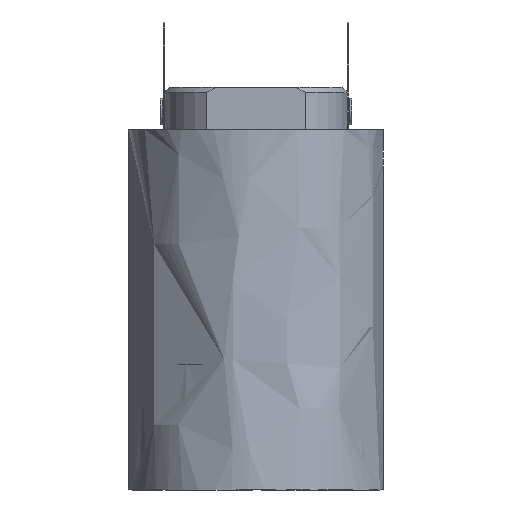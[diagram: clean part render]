
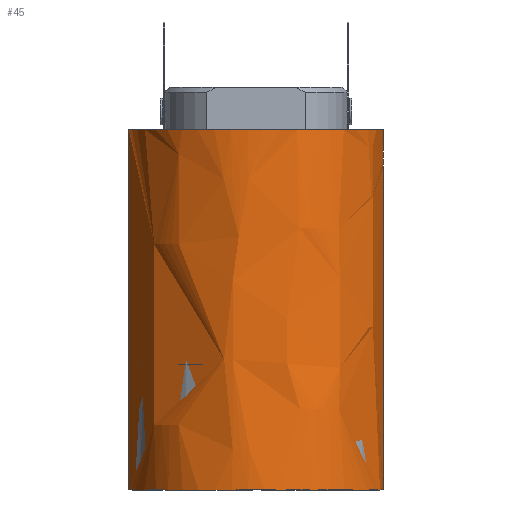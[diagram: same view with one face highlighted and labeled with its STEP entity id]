
A CAD part, front view. The second image highlights one B-rep face of the part: STEP entity #45.
In plain terms, the highlighted free-form (B-spline) face has degree [2, 1] with [9, 2] control points.
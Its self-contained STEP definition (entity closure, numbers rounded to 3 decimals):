
#45=ADVANCED_FACE('',(#423),#5024,.T.);
#423=FACE_OUTER_BOUND('',#776,.T.);
#776=EDGE_LOOP('',(#1156,#1157,#1158,#1159,#1160,#1161));
#1156=ORIENTED_EDGE('',*,*,#2828,.T.);
#1157=ORIENTED_EDGE('',*,*,#2829,.T.);
#1158=ORIENTED_EDGE('',*,*,#2841,.T.);
#1159=ORIENTED_EDGE('',*,*,#2830,.T.);
#1160=ORIENTED_EDGE('',*,*,#2831,.T.);
#1161=ORIENTED_EDGE('',*,*,#2832,.T.);
#2828=EDGE_CURVE('',#4509,#4510,#4182,.T.);
#2829=EDGE_CURVE('',#4510,#4508,#3667,.T.);
#2830=EDGE_CURVE('',#4511,#4506,#3668,.T.);
#2831=EDGE_CURVE('',#4506,#4507,#4183,.T.);
#2832=EDGE_CURVE('',#4507,#4509,#3669,.T.);
#2841=EDGE_CURVE('',#4508,#4511,#3672,.T.);
#3667=B_SPLINE_CURVE_WITH_KNOTS('',1,(#6378,#6379),.UNSPECIFIED.,.F.,.F.,
(2,2),(0.,67.4),.UNSPECIFIED.);
#3668=B_SPLINE_CURVE_WITH_KNOTS('',1,(#6380,#6381),.UNSPECIFIED.,.F.,.F.,
(2,2),(0.,4.4),.UNSPECIFIED.);
#3669=B_SPLINE_CURVE_WITH_KNOTS('',1,(#6387,#6388),.UNSPECIFIED.,.F.,.F.,
(2,2),(0.,75.),.UNSPECIFIED.);
#3672=B_SPLINE_CURVE_WITH_KNOTS('',3,(#6423,#6424,#6425,#6426,#6427,#6428,
#6429,#6430,#6431,#6432,#6433,#6434,#6435,#6436,#6437,#6438,#6439,#6440,
#6441,#6442,#6443,#6444,#6445,#6446,#6447,#6448,#6449,#6450,#6451,#6452,
#6453),.UNSPECIFIED.,.F.,.F.,(4,2,2,2,2,2,3,2,2,2,2,2,2,2,4),(0.,0.315,
0.631,0.946,1.262,1.893,2.524,
2.839,3.153,3.468,3.783,4.098,
4.412,4.727,5.042),.UNSPECIFIED.);
#4182=(
BOUNDED_CURVE()
B_SPLINE_CURVE(2,(#6373,#6374,#6375,#6376,#6377),.UNSPECIFIED.,.F.,.F.)
B_SPLINE_CURVE_WITH_KNOTS((3,2,3),(0.,41.626,83.252),
 .UNSPECIFIED.)
CURVE()
GEOMETRIC_REPRESENTATION_ITEM()
RATIONAL_B_SPLINE_CURVE((1.,0.707,1.,0.707,1.))
REPRESENTATION_ITEM('')
);
#4183=(
BOUNDED_CURVE()
B_SPLINE_CURVE(2,(#6382,#6383,#6384,#6385,#6386),.UNSPECIFIED.,.F.,.F.)
B_SPLINE_CURVE_WITH_KNOTS((3,2,3),(0.,41.626,83.252),
 .UNSPECIFIED.)
CURVE()
GEOMETRIC_REPRESENTATION_ITEM()
RATIONAL_B_SPLINE_CURVE((1.,0.707,1.,0.707,1.))
REPRESENTATION_ITEM('')
);
#4506=VERTEX_POINT('',#6361);
#4507=VERTEX_POINT('',#6362);
#4508=VERTEX_POINT('',#6363);
#4509=VERTEX_POINT('',#6364);
#4510=VERTEX_POINT('',#6365);
#4511=VERTEX_POINT('',#6366);
#5024=(
BOUNDED_SURFACE()
B_SPLINE_SURFACE(2,1,((#5748,#5749),(#5750,#5751),(#5752,#5753),(#5754,
#5755),(#5756,#5757),(#5758,#5759),(#5760,#5761),(#5762,#5763),(#5764,#5765)),
 .UNSPECIFIED.,.T.,.F.,.F.)
B_SPLINE_SURFACE_WITH_KNOTS((3,2,2,2,3),(2,2),(0.,41.626,83.252,
124.878,166.504),(0.,90.),.UNSPECIFIED.)
GEOMETRIC_REPRESENTATION_ITEM()
RATIONAL_B_SPLINE_SURFACE(((1.,1.),(0.707,0.707),
(1.,1.),(0.707,0.707),(1.,1.),(0.707,
0.707),(1.,1.),(0.707,0.707),(1.,1.)))
REPRESENTATION_ITEM('')
SURFACE()
);
#5748=CARTESIAN_POINT('',(0.,0.2,-56.2));
#5749=CARTESIAN_POINT('',(0.,0.2,33.8));
#5750=CARTESIAN_POINT('',(-26.5,0.2,-56.2));
#5751=CARTESIAN_POINT('',(-26.5,0.2,33.8));
#5752=CARTESIAN_POINT('',(-26.5,-26.3,-56.2));
#5753=CARTESIAN_POINT('',(-26.5,-26.3,33.8));
#5754=CARTESIAN_POINT('',(-26.5,-52.8,-56.2));
#5755=CARTESIAN_POINT('',(-26.5,-52.8,33.8));
#5756=CARTESIAN_POINT('',(0.,-52.8,-56.2));
#5757=CARTESIAN_POINT('',(0.,-52.8,33.8));
#5758=CARTESIAN_POINT('',(26.5,-52.8,-56.2));
#5759=CARTESIAN_POINT('',(26.5,-52.8,33.8));
#5760=CARTESIAN_POINT('',(26.5,-26.3,-56.2));
#5761=CARTESIAN_POINT('',(26.5,-26.3,33.8));
#5762=CARTESIAN_POINT('',(26.5,0.2,-56.2));
#5763=CARTESIAN_POINT('',(26.5,0.2,33.8));
#5764=CARTESIAN_POINT('',(0.,0.2,-56.2));
#5765=CARTESIAN_POINT('',(0.,0.2,33.8));
#6361=CARTESIAN_POINT('',(26.5,-26.3,26.3));
#6362=CARTESIAN_POINT('',(-26.5,-26.3,26.3));
#6363=CARTESIAN_POINT('',(26.5,-26.3,18.7));
#6364=CARTESIAN_POINT('',(-26.5,-26.3,-48.7));
#6365=CARTESIAN_POINT('',(26.5,-26.3,-48.7));
#6366=CARTESIAN_POINT('',(26.5,-26.3,21.9));
#6373=CARTESIAN_POINT('',(-26.5,-26.3,-48.7));
#6374=CARTESIAN_POINT('',(-26.5,-52.8,-48.7));
#6375=CARTESIAN_POINT('',(0.,-52.8,-48.7));
#6376=CARTESIAN_POINT('',(26.5,-52.8,-48.7));
#6377=CARTESIAN_POINT('',(26.5,-26.3,-48.7));
#6378=CARTESIAN_POINT('',(26.5,-26.3,-48.7));
#6379=CARTESIAN_POINT('',(26.5,-26.3,18.7));
#6380=CARTESIAN_POINT('',(26.5,-26.3,21.9));
#6381=CARTESIAN_POINT('',(26.5,-26.3,26.3));
#6382=CARTESIAN_POINT('',(26.5,-26.3,26.3));
#6383=CARTESIAN_POINT('',(26.5,-52.8,26.3));
#6384=CARTESIAN_POINT('',(0.,-52.8,26.3));
#6385=CARTESIAN_POINT('',(-26.5,-52.8,26.3));
#6386=CARTESIAN_POINT('',(-26.5,-26.3,26.3));
#6387=CARTESIAN_POINT('',(-26.5,-26.3,26.3));
#6388=CARTESIAN_POINT('',(-26.5,-26.3,-48.7));
#6423=CARTESIAN_POINT('',(26.5,-26.3,18.7));
#6424=CARTESIAN_POINT('',(26.5,-26.406,18.7));
#6425=CARTESIAN_POINT('',(26.499,-26.51,18.71));
#6426=CARTESIAN_POINT('',(26.497,-26.714,18.751));
#6427=CARTESIAN_POINT('',(26.495,-26.816,18.782));
#6428=CARTESIAN_POINT('',(26.491,-27.01,18.862));
#6429=CARTESIAN_POINT('',(26.488,-27.102,18.911));
#6430=CARTESIAN_POINT('',(26.482,-27.276,19.028));
#6431=CARTESIAN_POINT('',(26.479,-27.358,19.095));
#6432=CARTESIAN_POINT('',(26.47,-27.579,19.317));
#6433=CARTESIAN_POINT('',(26.463,-27.698,19.495));
#6434=CARTESIAN_POINT('',(26.454,-27.858,19.88));
#6435=CARTESIAN_POINT('',(26.452,-27.9,20.091));
#6436=CARTESIAN_POINT('',(26.452,-27.9,20.3));
#6437=CARTESIAN_POINT('',(26.452,-27.9,20.404));
#6438=CARTESIAN_POINT('',(26.452,-27.89,20.51));
#6439=CARTESIAN_POINT('',(26.455,-27.849,20.715));
#6440=CARTESIAN_POINT('',(26.456,-27.818,20.815));
#6441=CARTESIAN_POINT('',(26.461,-27.738,21.009));
#6442=CARTESIAN_POINT('',(26.464,-27.688,21.103));
#6443=CARTESIAN_POINT('',(26.47,-27.572,21.276));
#6444=CARTESIAN_POINT('',(26.473,-27.506,21.357));
#6445=CARTESIAN_POINT('',(26.479,-27.357,21.506));
#6446=CARTESIAN_POINT('',(26.482,-27.276,21.572));
#6447=CARTESIAN_POINT('',(26.488,-27.103,21.688));
#6448=CARTESIAN_POINT('',(26.491,-27.009,21.738));
#6449=CARTESIAN_POINT('',(26.495,-26.815,21.818));
#6450=CARTESIAN_POINT('',(26.497,-26.716,21.849));
#6451=CARTESIAN_POINT('',(26.499,-26.51,21.89));
#6452=CARTESIAN_POINT('',(26.5,-26.404,21.9));
#6453=CARTESIAN_POINT('',(26.5,-26.3,21.9));
